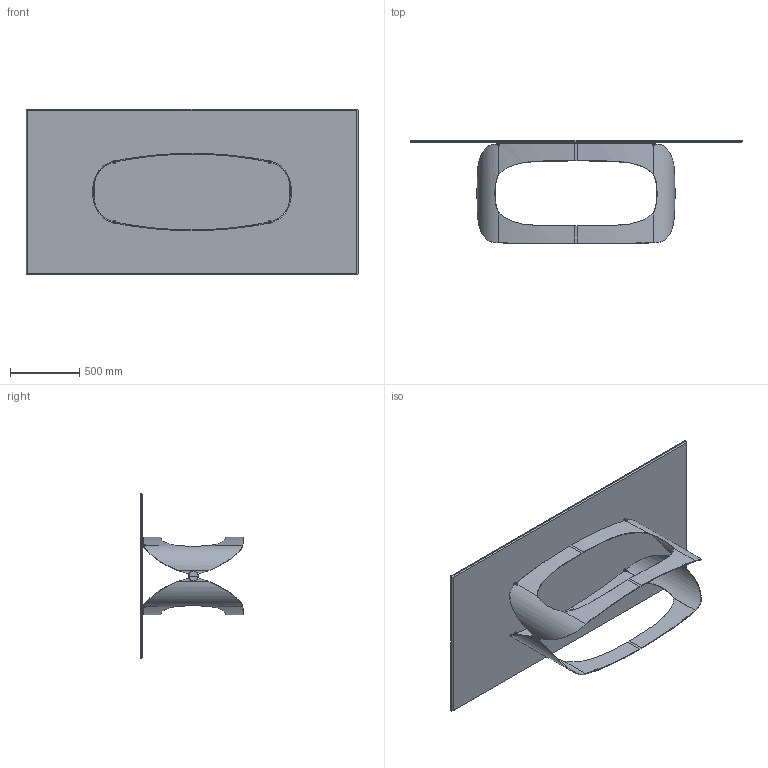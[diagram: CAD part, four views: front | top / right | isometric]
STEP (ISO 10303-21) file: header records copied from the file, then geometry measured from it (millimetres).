
FILE_DESCRIPTION (( 'STEP AP203' ), '1' );
FILE_NAME ('PO22C.STEP', '2024-08-06T14:07:15', ( '' ), ( '' ), 'SwSTEP 2.0', 'SolidWorks 2022', '' );
FILE_SCHEMA (( 'CONFIG_CONTROL_DESIGN' ));
Length unit declared in the file: millimetre
Products named in the file (11): PVC Ø19x3; PO22C; PVC profilo Polifemo 9x8; POL000000_01-01-MEZZA BASE POLIFEMO X PIANI 200-240_POL000000_03-00-MEZZA BASE PLIFEMO L160; POL000000-00-POLIFEMO BASE X PIANI 200-240_POL000000-00-POLIFEMO BASE L160; K2XCMXX-00-Piani Rettangolari in ceramica_2390 x 1190; POL000000_03A-01-POLIFEMO FREGIO; POL000000_03B-00-POLIFEMO FREGIO; PST0GR022-01-PIASTRA D22x22H mm+FILETTO M8 AVP-AVZ GREZZO; POL000000_03-01-POLIFEMO FREGIO COMPLETO; POL000000_02-02-CILINDRO DI FISSAGGIO Ø12X15 M8
Assembly tree (24 placements, depth 3):
  PO22C
    POL000000-00-POLIFEMO BASE X PIANI 200-240_POL000000-00-POLIFEMO BASE L160
      POL000000_01-01-MEZZA BASE POLIFEMO X PIANI 200-240_POL000000_03-00-MEZZA BASE PLIFEMO L160  x2
      POL000000_02-02-CILINDRO DI FISSAGGIO Ø12X15 M8  x4
    POL000000_03-01-POLIFEMO FREGIO COMPLETO  x2
      POL000000_03A-01-POLIFEMO FREGIO
      POL000000_03B-00-POLIFEMO FREGIO
    PST0GR022-01-PIASTRA D22x22H mm+FILETTO M8 AVP-AVZ GREZZO  x4
    PVC Ø19x3  x4
    PVC profilo Polifemo 9x8  x3
    K2XCMXX-00-Piani Rettangolari in ceramica_2390 x 1190
Bounding box: 2390 x 740.97 x 1190 mm (x, y, z)
Volume: 52493628.7 mm3; surface area: 13983914.9 mm2
Topology: 25 solids, 25 shells, 490 faces, 1216 edges, 782 vertices
Faces by surface type: cylinder 225, plane 165, bspline 80, cone 20
Entity records: 17166 total; most frequent: CARTESIAN_POINT 11294, ORIENTED_EDGE 976, DIRECTION 809, EDGE_CURVE 488, VERTEX_POINT 314, AXIS2_PLACEMENT_3D 298, VECTOR 213, LINE 213
